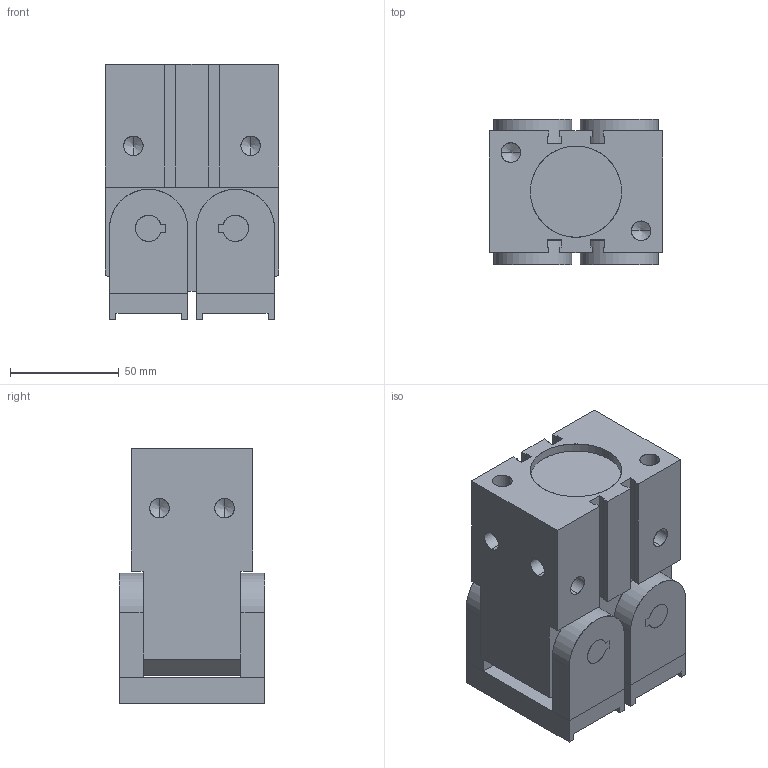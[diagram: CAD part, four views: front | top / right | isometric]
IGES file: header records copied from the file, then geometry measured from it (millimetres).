
Start section: SolidWorks IGES file using analytic representation for surfaces
Global section: file name: C:\Documents and Settings\1EDPI\Mes documents\Kevin 17.01.13\ghk\ghk40\GHK 40 close.IGS; native system: SolidWorks 2010; preprocessor: SolidWorks 2010; author: 1EDPI; date: 130304.105140; units: millimetre
Bounding box: 80 x 67 x 117.5 mm (x, y, z)
Surface area: 83443.7 mm2 (no closed solid volume)
Topology: 0 solids, 0 shells, 275 faces, 3468 edges, 3448 vertices
Faces by surface type: bspline 189, revolution 86
